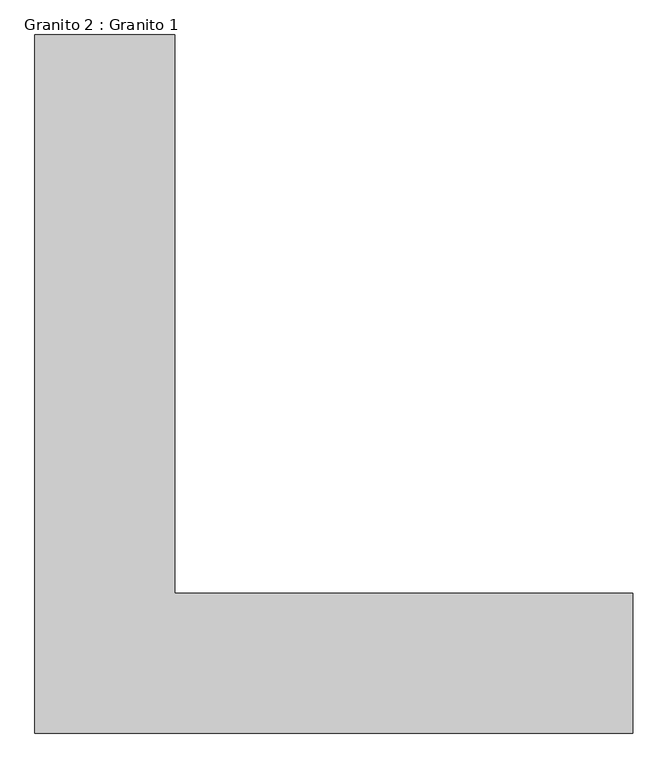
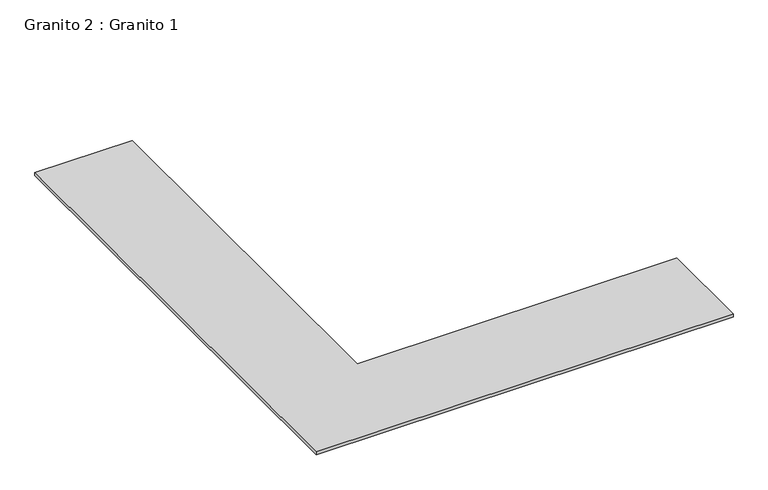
"""IFC4 building model written with IfcOpenShell, lengths in millimetres: furniture geometry, Granito 2 : Granito 1."""

from ifc_helpers import new_model, si_unit, frame, origin, place, context, project, spatial, polyline, outline, extrude, source, transform, mapped, element, save


def granito_2_granito_1_fe92f8dd(model_context):
    return source(origin(), model_context, "Body", "SweptSolid", [
        extrude(outline(polyline([(-3242.3834094, -7967.0637549), (-3242.3834094, -4667.0637549), (-2582.3834094, -4667.0637549), (-2582.3834094, -7281.0227304), (-2582.3834094, -7307.0637549), (-417.3834094, -7307.0637549), (-417.3834094, -7967.0637549), (-3242.3834094, -7967.0637549)])), frame((0.0, 0.0, 900.0), z_axis=(0.0, 0.0, 1.0), x_axis=(1.0, 0.0, 0.0)), (0.0, 0.0, 1.0), 20.0),
    ])


if __name__ == "__main__":
    model = new_model("IFC4")
    model_context = context("Model", 3, world=origin())
    ifc_project = project(units=[si_unit("LENGTHUNIT", "METRE", prefix="MILLI")], contexts=[model_context])
    site = spatial("IfcSite", under=ifc_project)
    building = spatial("IfcBuilding", under=site)
    placement = place(None, origin())
    granito_2_granito_1_shape = granito_2_granito_1_fe92f8dd(model_context)
    element("IfcFurniture", 1, ObjectType="Granito 2 : Granito 1", at=placement, inside=building, context=model_context, shape_type="MappedRepresentation", body=[
        mapped(granito_2_granito_1_shape, transform((0.0, 0.0, 0.0), x_axis=(1.0, 0.0, 0.0), y_axis=(0.0, 1.0, 0.0), z_axis=(0.0, 0.0, 1.0))),
    ])
    save(model, "model.ifc")
